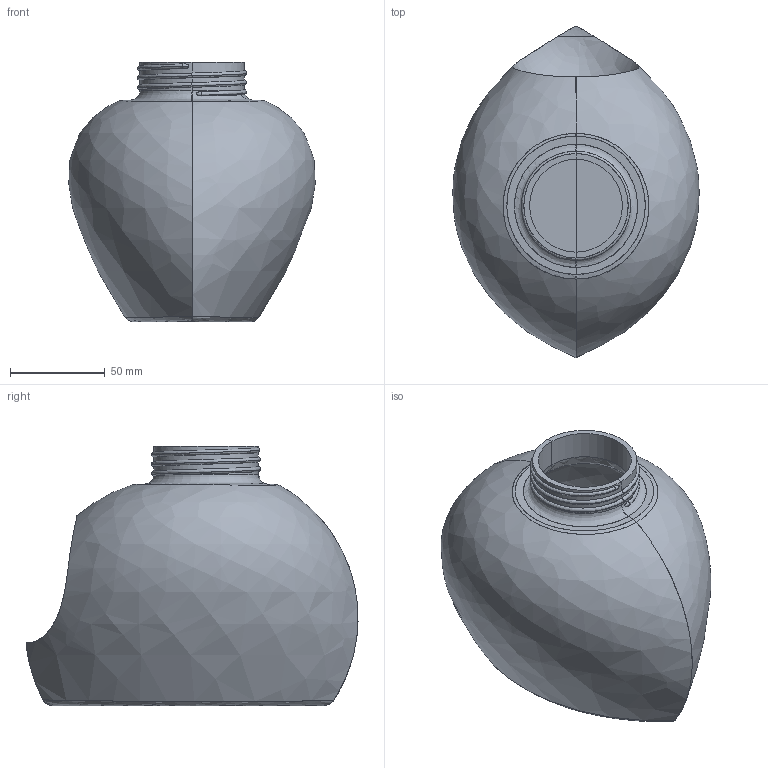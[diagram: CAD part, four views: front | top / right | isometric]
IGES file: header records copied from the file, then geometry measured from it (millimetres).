
Start section: START RECORD GO HERE.
Global section: file name: c1-Pons_Romances_Ignasi-solucion-posible.igs; native system: IBM CATIA IGES - CATIA Version 5 Release 19 ; preprocessor: CATIA Version 5 Release 19 ; author: andres.garcia; organization: IQS; date: 20200131.143936; units: millimetre
Bounding box: 130.02 x 175.2 x 137 mm (x, y, z)
Surface area: 130914.4 mm2 (no closed solid volume)
Topology: 0 solids, 0 shells, 54 faces, 252 edges, 248 vertices
Faces by surface type: bspline 32, revolution 16, plane 6
